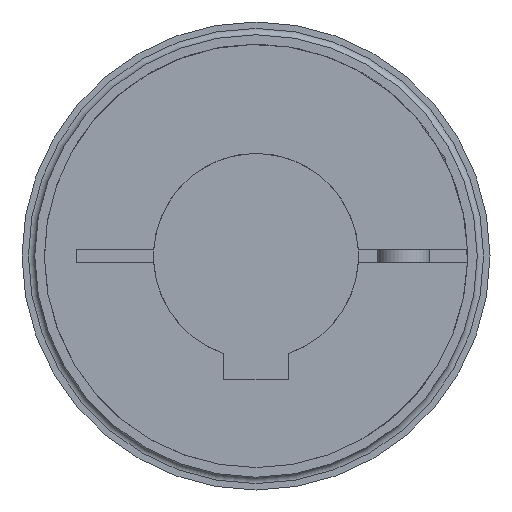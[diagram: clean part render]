
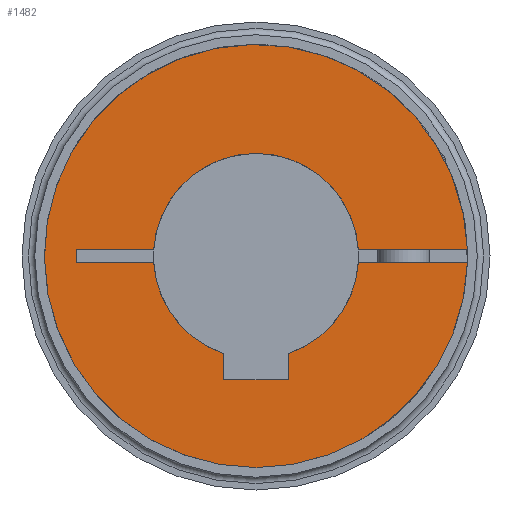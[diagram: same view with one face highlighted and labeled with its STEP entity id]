
A CAD part, left-side view. The second image highlights one B-rep face of the part: STEP entity #1482.
In plain terms, the highlighted planar face has unit normal (-1, 0, 0).
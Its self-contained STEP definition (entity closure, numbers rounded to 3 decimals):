
#24=PLANE('',#1695);
#141=LINE('',#2678,#244);
#144=LINE('',#2684,#247);
#145=LINE('',#2686,#248);
#156=LINE('',#2707,#259);
#157=LINE('',#2709,#260);
#158=LINE('',#2711,#261);
#159=LINE('',#2713,#262);
#160=LINE('',#2714,#263);
#244=VECTOR('',#2053,1.);
#247=VECTOR('',#2058,1.);
#248=VECTOR('',#2061,1.);
#259=VECTOR('',#2084,1.);
#260=VECTOR('',#2087,1.);
#261=VECTOR('',#2088,1.);
#262=VECTOR('',#2089,1.);
#263=VECTOR('',#2090,1.);
#375=FACE_OUTER_BOUND('',#470,.T.);
#470=EDGE_LOOP('',(#1224,#1225,#1226,#1227,#1228,#1229,#1230,#1231,#1232,
#1233,#1234,#1235,#1236));
#604=CIRCLE('',#1630,33.);
#607=CIRCLE('',#1633,33.);
#638=CIRCLE('',#1679,16.);
#641=CIRCLE('',#1683,16.);
#643=CIRCLE('',#1685,16.);
#697=VERTEX_POINT('',#2374);
#698=VERTEX_POINT('',#2376);
#703=VERTEX_POINT('',#2386);
#744=VERTEX_POINT('',#2648);
#745=VERTEX_POINT('',#2649);
#750=VERTEX_POINT('',#2660);
#751=VERTEX_POINT('',#2662);
#754=VERTEX_POINT('',#2668);
#755=VERTEX_POINT('',#2670);
#757=VERTEX_POINT('',#2676);
#759=VERTEX_POINT('',#2682);
#764=VERTEX_POINT('',#2710);
#765=VERTEX_POINT('',#2712);
#862=EDGE_CURVE('',#697,#698,#604,.T.);
#868=EDGE_CURVE('',#703,#697,#607,.T.);
#921=EDGE_CURVE('',#744,#745,#638,.T.);
#927=EDGE_CURVE('',#751,#750,#641,.T.);
#931=EDGE_CURVE('',#755,#754,#643,.T.);
#935=EDGE_CURVE('',#754,#757,#141,.T.);
#938=EDGE_CURVE('',#757,#759,#144,.T.);
#939=EDGE_CURVE('',#759,#751,#145,.T.);
#950=EDGE_CURVE('',#745,#698,#156,.T.);
#951=EDGE_CURVE('',#703,#755,#157,.T.);
#952=EDGE_CURVE('',#750,#764,#158,.T.);
#953=EDGE_CURVE('',#764,#765,#159,.T.);
#954=EDGE_CURVE('',#765,#744,#160,.T.);
#1224=ORIENTED_EDGE('',*,*,#921,.T.);
#1225=ORIENTED_EDGE('',*,*,#950,.T.);
#1226=ORIENTED_EDGE('',*,*,#862,.F.);
#1227=ORIENTED_EDGE('',*,*,#868,.F.);
#1228=ORIENTED_EDGE('',*,*,#951,.T.);
#1229=ORIENTED_EDGE('',*,*,#931,.T.);
#1230=ORIENTED_EDGE('',*,*,#935,.T.);
#1231=ORIENTED_EDGE('',*,*,#938,.T.);
#1232=ORIENTED_EDGE('',*,*,#939,.T.);
#1233=ORIENTED_EDGE('',*,*,#927,.T.);
#1234=ORIENTED_EDGE('',*,*,#952,.T.);
#1235=ORIENTED_EDGE('',*,*,#953,.T.);
#1236=ORIENTED_EDGE('',*,*,#954,.T.);
#1482=ADVANCED_FACE('',(#375),#24,.T.);
#1630=AXIS2_PLACEMENT_3D('',#2377,#1912,#1913);
#1633=AXIS2_PLACEMENT_3D('',#2388,#1921,#1922);
#1679=AXIS2_PLACEMENT_3D('',#2650,#2029,#2030);
#1683=AXIS2_PLACEMENT_3D('',#2663,#2040,#2041);
#1685=AXIS2_PLACEMENT_3D('',#2671,#2046,#2047);
#1695=AXIS2_PLACEMENT_3D('',#2708,#2085,#2086);
#1912=DIRECTION('center_axis',(1.,0.,0.));
#1913=DIRECTION('ref_axis',(0.,0.,1.));
#1921=DIRECTION('center_axis',(1.,0.,0.));
#1922=DIRECTION('ref_axis',(0.,0.,1.));
#2029=DIRECTION('center_axis',(1.,0.,0.));
#2030=DIRECTION('ref_axis',(0.,0.,-1.));
#2040=DIRECTION('center_axis',(1.,0.,0.));
#2041=DIRECTION('ref_axis',(0.,0.,-1.));
#2046=DIRECTION('center_axis',(1.,0.,0.));
#2047=DIRECTION('ref_axis',(0.,0.,-1.));
#2053=DIRECTION('',(0.,0.,-1.));
#2058=DIRECTION('',(0.,1.,0.));
#2061=DIRECTION('',(0.,0.,1.));
#2084=DIRECTION('',(0.,-1.,0.));
#2085=DIRECTION('center_axis',(-1.,0.,0.));
#2086=DIRECTION('ref_axis',(0.,0.,-1.));
#2087=DIRECTION('',(0.,1.,0.));
#2088=DIRECTION('',(0.,1.,0.));
#2089=DIRECTION('',(0.,0.,1.));
#2090=DIRECTION('',(0.,-1.,0.));
#2374=CARTESIAN_POINT('',(0.,0.,-33.));
#2376=CARTESIAN_POINT('',(0.,-32.985,1.));
#2377=CARTESIAN_POINT('Origin',(0.,0.,0.));
#2386=CARTESIAN_POINT('',(0.,-32.985,-1.));
#2388=CARTESIAN_POINT('Origin',(0.,0.,0.));
#2648=CARTESIAN_POINT('',(0.,15.969,1.));
#2649=CARTESIAN_POINT('',(0.,-15.969,1.));
#2650=CARTESIAN_POINT('Origin',(0.,0.,0.));
#2660=CARTESIAN_POINT('',(0.,15.969,-1.));
#2662=CARTESIAN_POINT('',(0.,5.,-15.199));
#2663=CARTESIAN_POINT('Origin',(0.,0.,0.));
#2668=CARTESIAN_POINT('',(0.,-5.,-15.199));
#2670=CARTESIAN_POINT('',(0.,-15.969,-1.));
#2671=CARTESIAN_POINT('Origin',(0.,0.,0.));
#2676=CARTESIAN_POINT('',(0.,-5.,-19.3));
#2678=CARTESIAN_POINT('',(0.,-5.,3.425));
#2682=CARTESIAN_POINT('',(0.,5.,-19.3));
#2684=CARTESIAN_POINT('',(0.,0.,-19.3));
#2686=CARTESIAN_POINT('',(0.,5.,3.425));
#2707=CARTESIAN_POINT('',(0.,-1.5,1.));
#2708=CARTESIAN_POINT('Origin',(0.,0.,16.5));
#2709=CARTESIAN_POINT('',(0.,-1.5,-1.));
#2710=CARTESIAN_POINT('',(0.,28.,-1.));
#2711=CARTESIAN_POINT('',(0.,-1.5,-1.));
#2712=CARTESIAN_POINT('',(0.,28.,1.));
#2713=CARTESIAN_POINT('',(0.,28.,8.25));
#2714=CARTESIAN_POINT('',(0.,-1.5,1.));
